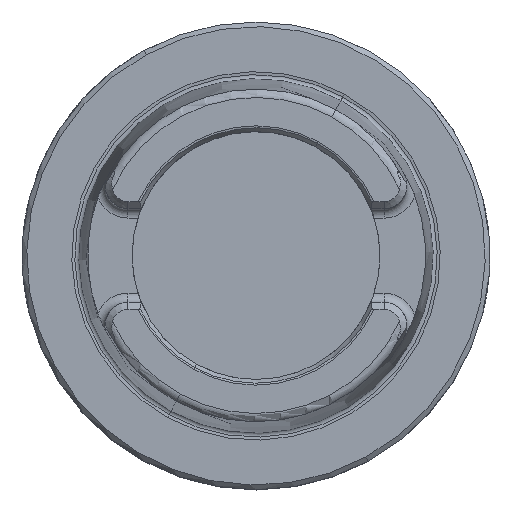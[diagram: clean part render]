
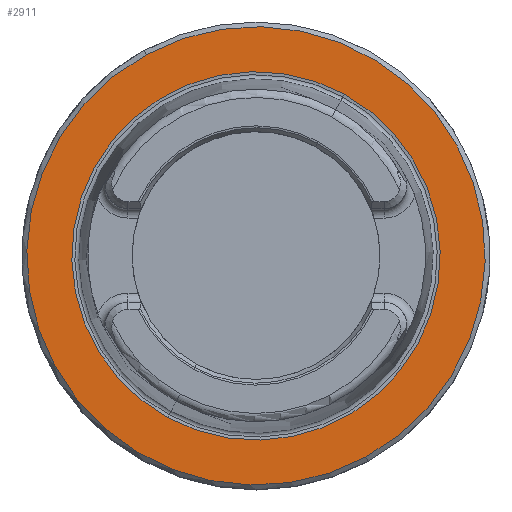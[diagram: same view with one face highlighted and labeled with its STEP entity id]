
A CAD part, top view. The second image highlights one B-rep face of the part: STEP entity #2911.
In plain terms, the highlighted planar face has unit normal (0, 0, 1).
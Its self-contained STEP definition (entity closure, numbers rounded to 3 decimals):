
#2841=AXIS2_PLACEMENT_3D('Circle Axis2P3D',#2839,#2840,$) ;
#2861=AXIS2_PLACEMENT_3D('Circle Axis2P3D',#2859,#2860,$) ;
#2887=AXIS2_PLACEMENT_3D('Plane Axis2P3D',#2884,#2885,#2886) ;
#2895=AXIS2_PLACEMENT_3D('Circle Axis2P3D',#2893,#2894,$) ;
#2904=AXIS2_PLACEMENT_3D('Circle Axis2P3D',#2902,#2903,$) ;
#2836=CARTESIAN_POINT('Vertex',(23.492,-43.002,0.)) ;
#2839=CARTESIAN_POINT('Axis2P3D Location',(0.,0.,0.)) ;
#2843=CARTESIAN_POINT('Vertex',(-23.492,43.002,0.)) ;
#2859=CARTESIAN_POINT('Axis2P3D Location',(0.,0.,0.)) ;
#2884=CARTESIAN_POINT('Axis2P3D Location',(0.,-38.285,0.)) ;
#2893=CARTESIAN_POINT('Axis2P3D Location',(0.,0.,0.)) ;
#2897=CARTESIAN_POINT('Vertex',(18.88,34.56,0.)) ;
#2899=CARTESIAN_POINT('Vertex',(-18.88,-34.56,0.)) ;
#2902=CARTESIAN_POINT('Axis2P3D Location',(0.,0.,0.)) ;
#2840=DIRECTION('Axis2P3D Direction',(0.,0.,-1.)) ;
#2860=DIRECTION('Axis2P3D Direction',(0.,0.,-1.)) ;
#2885=DIRECTION('Axis2P3D Direction',(0.,0.,-1.)) ;
#2886=DIRECTION('Axis2P3D XDirection',(-1.,0.,0.)) ;
#2894=DIRECTION('Axis2P3D Direction',(0.,0.,-1.)) ;
#2903=DIRECTION('Axis2P3D Direction',(0.,0.,-1.)) ;
#2890=ORIENTED_EDGE('',*,*,#2845,.F.) ;
#2891=ORIENTED_EDGE('',*,*,#2863,.F.) ;
#2908=ORIENTED_EDGE('',*,*,#2901,.T.) ;
#2909=ORIENTED_EDGE('',*,*,#2906,.T.) ;
#2910=FACE_BOUND('',#2907,.T.) ;
#2911=ADVANCED_FACE('NO_CUT',(#2892,#2910),#2888,.F.) ;
#2842=CIRCLE('generated circle',#2841,49.) ;
#2862=CIRCLE('generated circle',#2861,49.) ;
#2896=CIRCLE('generated circle',#2895,39.381) ;
#2905=CIRCLE('generated circle',#2904,39.381) ;
#2845=EDGE_CURVE('',#2837,#2844,#2842,.T.) ;
#2863=EDGE_CURVE('',#2844,#2837,#2862,.T.) ;
#2901=EDGE_CURVE('',#2898,#2900,#2896,.T.) ;
#2906=EDGE_CURVE('',#2900,#2898,#2905,.T.) ;
#2889=EDGE_LOOP('',(#2890,#2891)) ;
#2907=EDGE_LOOP('',(#2908,#2909)) ;
#2892=FACE_OUTER_BOUND('',#2889,.T.) ;
#2888=PLANE('',#2887) ;
#2837=VERTEX_POINT('',#2836) ;
#2844=VERTEX_POINT('',#2843) ;
#2898=VERTEX_POINT('',#2897) ;
#2900=VERTEX_POINT('',#2899) ;
